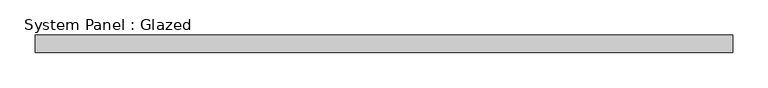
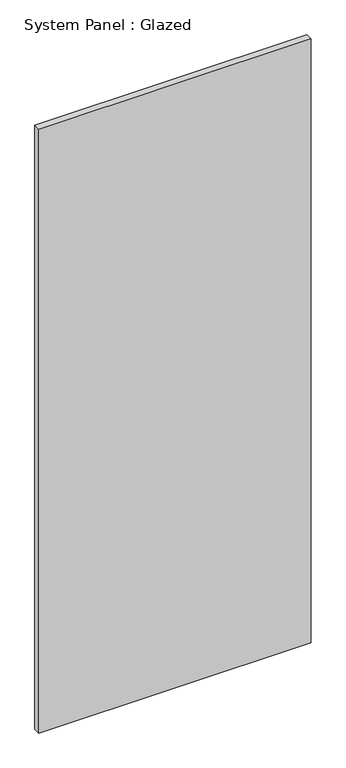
"""IFC4 building model written with IfcOpenShell, lengths in millimetres: plate geometry, System Panel : Glazed."""

from ifc_helpers import new_model, si_unit, origin, origin_with_axes, place, context, project, spatial, polyline, outline, extrude, source, transform, mapped, element, save


def system_panel_glazed_97791b95(model_context):
    return source(origin(), model_context, "Body", "SweptSolid", [
        extrude(outline(polyline([(495.8333334, -49.5), (-495.8333334, -49.5), (-495.8333334, -24.5), (495.8333334, -24.5), (495.8333334, -49.5)])), origin_with_axes(), (0.0, 0.0, 1.0), 2325.0),
    ])


if __name__ == "__main__":
    model = new_model("IFC4")
    model_context = context("Model", 3, world=origin())
    ifc_project = project(units=[si_unit("LENGTHUNIT", "METRE", prefix="MILLI")], contexts=[model_context])
    site = spatial("IfcSite", under=ifc_project)
    building = spatial("IfcBuilding", under=site)
    placement = place(None, origin())
    system_panel_glazed_shape = system_panel_glazed_97791b95(model_context)
    element("IfcPlate", 1, ObjectType="System Panel : Glazed", at=placement, inside=building, context=model_context, shape_type="MappedRepresentation", body=[
        mapped(system_panel_glazed_shape, transform((0.0, 0.0, 0.0), x_axis=(1.0, 0.0, 0.0), y_axis=(0.0, 1.0, 0.0), z_axis=(0.0, 0.0, 1.0))),
    ])
    save(model, "model.ifc")
